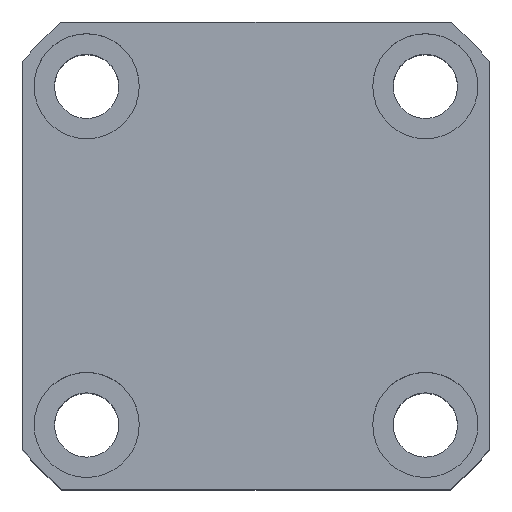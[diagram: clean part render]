
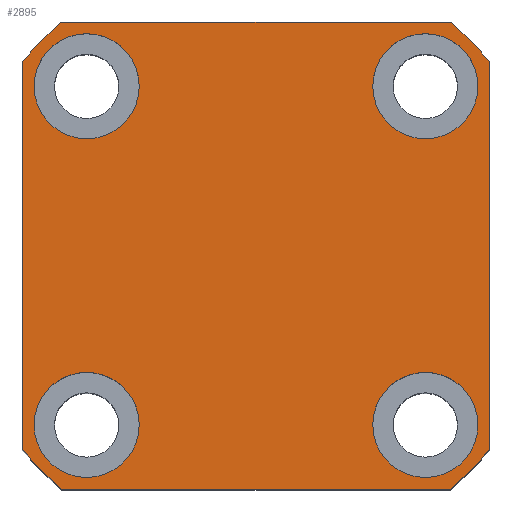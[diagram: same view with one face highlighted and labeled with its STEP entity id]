
A CAD part, top view. The second image highlights one B-rep face of the part: STEP entity #2895.
In plain terms, the highlighted planar face has unit normal (0, 0, 1).
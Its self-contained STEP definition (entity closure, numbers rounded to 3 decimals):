
#2895=ADVANCED_FACE('',(#3559,#3560,#3561,#3562,#3563),#3264,.T.);
#3264=PLANE('',#9519);
#3559=FACE_BOUND('',#3771,.T.);
#3560=FACE_BOUND('',#3772,.T.);
#3561=FACE_BOUND('',#3773,.T.);
#3562=FACE_BOUND('',#3774,.T.);
#3563=FACE_BOUND('',#3775,.T.);
#3771=EDGE_LOOP('',(#5756));
#3772=EDGE_LOOP('',(#5757));
#3773=EDGE_LOOP('',(#5758));
#3774=EDGE_LOOP('',(#5759));
#3775=EDGE_LOOP('',(#5760,#5761,#5762,#5763,#5764,#5765,#5766,#5767));
#4229=LINE('',#11424,#4891);
#4234=LINE('',#12070,#4896);
#4239=LINE('',#12084,#4901);
#4243=LINE('',#12099,#4905);
#4891=VECTOR('',#9857,1.);
#4896=VECTOR('',#9998,1.);
#4901=VECTOR('',#10011,1.);
#4905=VECTOR('',#10029,1.);
#5756=ORIENTED_EDGE('',*,*,#8405,.F.);
#5757=ORIENTED_EDGE('',*,*,#8407,.F.);
#5758=ORIENTED_EDGE('',*,*,#8409,.F.);
#5759=ORIENTED_EDGE('',*,*,#8411,.F.);
#5760=ORIENTED_EDGE('',*,*,#8435,.T.);
#5761=ORIENTED_EDGE('',*,*,#8438,.T.);
#5762=ORIENTED_EDGE('',*,*,#8440,.T.);
#5763=ORIENTED_EDGE('',*,*,#8343,.T.);
#5764=ORIENTED_EDGE('',*,*,#8443,.T.);
#5765=ORIENTED_EDGE('',*,*,#8446,.T.);
#5766=ORIENTED_EDGE('',*,*,#8448,.T.);
#5767=ORIENTED_EDGE('',*,*,#8431,.T.);
#7632=VERTEX_POINT('',#11423);
#7633=VERTEX_POINT('',#11425);
#7693=VERTEX_POINT('',#12006);
#7695=VERTEX_POINT('',#12011);
#7697=VERTEX_POINT('',#12016);
#7699=VERTEX_POINT('',#12021);
#7719=VERTEX_POINT('',#12069);
#7720=VERTEX_POINT('',#12071);
#7722=VERTEX_POINT('',#12077);
#7724=VERTEX_POINT('',#12083);
#7726=VERTEX_POINT('',#12092);
#7728=VERTEX_POINT('',#12098);
#8343=EDGE_CURVE('',#7633,#7632,#4229,.T.);
#8405=EDGE_CURVE('',#7693,#7693,#9355,.T.);
#8407=EDGE_CURVE('',#7695,#7695,#9357,.T.);
#8409=EDGE_CURVE('',#7697,#7697,#9359,.T.);
#8411=EDGE_CURVE('',#7699,#7699,#9361,.T.);
#8431=EDGE_CURVE('',#7720,#7719,#4234,.T.);
#8435=EDGE_CURVE('',#7719,#7722,#9380,.T.);
#8438=EDGE_CURVE('',#7722,#7724,#4239,.T.);
#8440=EDGE_CURVE('',#7724,#7633,#9382,.T.);
#8443=EDGE_CURVE('',#7632,#7726,#9384,.T.);
#8446=EDGE_CURVE('',#7726,#7728,#4243,.T.);
#8448=EDGE_CURVE('',#7728,#7720,#9386,.T.);
#9355=CIRCLE('',#9468,9.);
#9357=CIRCLE('',#9471,9.);
#9359=CIRCLE('',#9474,9.);
#9361=CIRCLE('',#9477,9.);
#9380=CIRCLE('',#9506,52.);
#9382=CIRCLE('',#9510,52.);
#9384=CIRCLE('',#9513,52.);
#9386=CIRCLE('',#9517,52.);
#9468=AXIS2_PLACEMENT_3D('',#12005,#9924,#9925);
#9471=AXIS2_PLACEMENT_3D('',#12010,#9930,#9931);
#9474=AXIS2_PLACEMENT_3D('',#12015,#9936,#9937);
#9477=AXIS2_PLACEMENT_3D('',#12020,#9942,#9943);
#9506=AXIS2_PLACEMENT_3D('',#12078,#10005,#10006);
#9510=AXIS2_PLACEMENT_3D('',#12087,#10016,#10017);
#9513=AXIS2_PLACEMENT_3D('',#12093,#10023,#10024);
#9517=AXIS2_PLACEMENT_3D('',#12102,#10034,#10035);
#9519=AXIS2_PLACEMENT_3D('',#12104,#10038,#10039);
#9857=DIRECTION('',(1.,0.,0.));
#9924=DIRECTION('',(0.,0.,1.));
#9925=DIRECTION('',(1.,0.,0.));
#9930=DIRECTION('',(0.,0.,1.));
#9931=DIRECTION('',(1.,0.,0.));
#9936=DIRECTION('',(0.,0.,1.));
#9937=DIRECTION('',(1.,0.,0.));
#9942=DIRECTION('',(0.,0.,1.));
#9943=DIRECTION('',(1.,0.,0.));
#9998=DIRECTION('',(-1.,0.,0.));
#10005=DIRECTION('',(0.,0.,1.));
#10006=DIRECTION('',(1.,0.,0.));
#10011=DIRECTION('',(0.,-1.,0.));
#10016=DIRECTION('',(0.,0.,1.));
#10017=DIRECTION('',(1.,0.,0.));
#10023=DIRECTION('',(0.,0.,1.));
#10024=DIRECTION('',(1.,0.,0.));
#10029=DIRECTION('',(0.,1.,0.));
#10034=DIRECTION('',(0.,0.,1.));
#10035=DIRECTION('',(1.,0.,0.));
#10038=DIRECTION('',(0.,0.,1.));
#10039=DIRECTION('',(-1.,0.,0.));
#11423=CARTESIAN_POINT('',(33.226,-40.,42.5));
#11424=CARTESIAN_POINT('',(-33.226,-40.,42.5));
#11425=CARTESIAN_POINT('',(-33.226,-40.,42.5));
#12005=CARTESIAN_POINT('',(29.,-29.,42.5));
#12006=CARTESIAN_POINT('',(38.,-29.,42.5));
#12010=CARTESIAN_POINT('',(-29.,-29.,42.5));
#12011=CARTESIAN_POINT('',(-20.,-29.,42.5));
#12015=CARTESIAN_POINT('',(-29.,29.,42.5));
#12016=CARTESIAN_POINT('',(-20.,29.,42.5));
#12020=CARTESIAN_POINT('',(29.,29.,42.5));
#12021=CARTESIAN_POINT('',(38.,29.,42.5));
#12069=CARTESIAN_POINT('',(-33.226,40.,42.5));
#12070=CARTESIAN_POINT('',(-33.226,40.,42.5));
#12071=CARTESIAN_POINT('',(33.226,40.,42.5));
#12077=CARTESIAN_POINT('',(-40.,33.226,42.5));
#12078=CARTESIAN_POINT('',(0.,0.,42.5));
#12083=CARTESIAN_POINT('',(-40.,-33.226,42.5));
#12084=CARTESIAN_POINT('',(-40.,33.226,42.5));
#12087=CARTESIAN_POINT('',(0.,0.,42.5));
#12092=CARTESIAN_POINT('',(40.,-33.226,42.5));
#12093=CARTESIAN_POINT('',(0.,0.,42.5));
#12098=CARTESIAN_POINT('',(40.,33.226,42.5));
#12099=CARTESIAN_POINT('',(40.,33.226,42.5));
#12102=CARTESIAN_POINT('',(0.,0.,42.5));
#12104=CARTESIAN_POINT('',(0.,0.,42.5));
